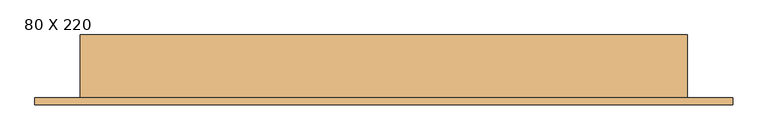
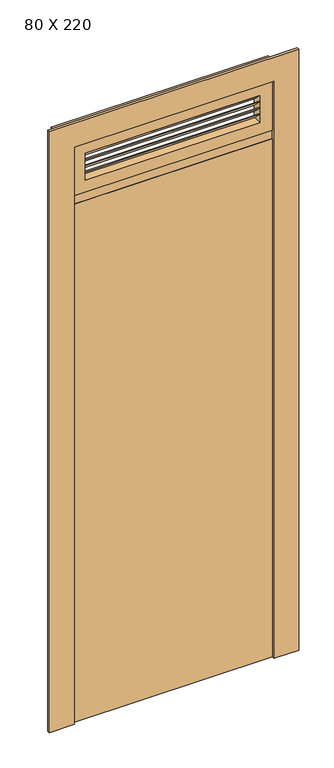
"""IFC4 building model written with IfcOpenShell, lengths in millimetres: door geometry, PORTA DE ABRIR PARA FORA - 1 FOLHA + BANDEIRA VENEZIANA FIXA - 1 FOLHA : 80 X 220."""

from ifc_helpers import new_model, si_unit, frame, origin, origin_with_axes, place, context, project, spatial, polyline, outline, extrude, source, transform, mapped, element, save


def door_80_x_220_70965305(model_context):
    return source(origin(), model_context, "Body", "SweptSolid", [
        extrude(outline(polyline([(480.0, -35.0), (480.0, -75.0), (-320.0, -75.0), (-320.0, -35.0), (480.0, -35.0)])), origin_with_axes(), (0.0, 0.0, 1.0), 2200.0),
        extrude(outline(polyline([(-40.0, 2338.3333333), (-75.0, 2373.3333333), (-70.0, 2373.3333333), (-35.0, 2338.3333333), (-40.0, 2338.3333333)])), frame((-270.0, 0.0, 0.0), z_axis=(1.0, 0.0, 0.0), x_axis=(0.0, 1.0, 0.0)), (0.0, 0.0, 1.0), 700.0),
        extrude(outline(polyline([(-40.0, 2311.6666667), (-75.0, 2346.6666667), (-70.0, 2346.6666667), (-35.0, 2311.6666667), (-40.0, 2311.6666667)])), frame((-270.0, 0.0, 0.0), z_axis=(1.0, 0.0, 0.0), x_axis=(0.0, 1.0, 0.0)), (0.0, 0.0, 1.0), 700.0),
        extrude(outline(polyline([(-40.0, 2365.0), (-75.0, 2400.0), (-70.0, 2400.0), (-35.0, 2365.0), (-40.0, 2365.0)])), frame((-270.0, 0.0, 0.0), z_axis=(1.0, 0.0, 0.0), x_axis=(0.0, 1.0, 0.0)), (0.0, 0.0, 1.0), 700.0),
        extrude(outline(polyline([(-40.0, 2285.0), (-75.0, 2320.0), (-70.0, 2320.0), (-35.0, 2285.0), (-40.0, 2285.0)])), frame((-270.0, 0.0, 0.0), z_axis=(1.0, 0.0, 0.0), x_axis=(0.0, 1.0, 0.0)), (0.0, 0.0, 1.0), 700.0),
        extrude(outline(polyline([(2450.0, 480.0), (2450.0, -320.0), (2235.0, -320.0), (2235.0, 480.0), (2450.0, 480.0)]), holes=[polyline([(2400.0, 430.0), (2285.0, 430.0), (2285.0, -270.0), (2400.0, -270.0), (2400.0, 430.0)])]), frame((0.0, -75.0, 0.0), z_axis=(0.0, 1.0, 0.0), x_axis=(0.0, 0.0, 1.0)), (0.0, 0.0, 1.0), 40.0),
        extrude(outline(polyline([(2450.0, -320.0), (2450.0, 480.0), (0.0, 480.0), (0.0, 580.0), (2550.0, 580.0), (2550.0, -420.0), (0.0, -420.0), (0.0, -320.0), (2450.0, -320.0)])), frame((0.0, -85.0, 0.0), z_axis=(0.0, 1.0, 0.0), x_axis=(0.0, 0.0, 1.0)), (0.0, 0.0, 1.0), 10.0),
        extrude(outline(polyline([(0.0, -355.0), (0.0, -320.0), (2200.0, -320.0), (2200.0, 480.0), (0.0, 480.0), (0.0, 515.0), (2485.0, 515.0), (2485.0, -355.0), (0.0, -355.0)]), holes=[polyline([(2235.0, 480.0), (2235.0, -320.0), (2450.0, -320.0), (2450.0, 480.0), (2235.0, 480.0)])]), frame((0.0, -75.0, 0.0), z_axis=(0.0, 1.0, 0.0), x_axis=(0.0, 0.0, 1.0)), (0.0, 0.0, 1.0), 90.0),
    ])


if __name__ == "__main__":
    model = new_model("IFC4")
    model_context = context("Model", 3, world=origin())
    ifc_project = project(units=[si_unit("LENGTHUNIT", "METRE", prefix="MILLI")], contexts=[model_context])
    site = spatial("IfcSite", under=ifc_project)
    building = spatial("IfcBuilding", under=site)
    placement = place(None, origin())
    door_80_x_220_shape = door_80_x_220_70965305(model_context)
    element("IfcDoor", 1, ObjectType="PORTA DE ABRIR PARA FORA - 1 FOLHA + BANDEIRA VENEZIANA FIXA - 1 FOLHA : 80 X 220", at=placement, inside=building, context=model_context, shape_type="MappedRepresentation", body=[
        mapped(door_80_x_220_shape, transform((0.0, 0.0, 0.0), x_axis=(1.0, 0.0, 0.0), y_axis=(0.0, 1.0, 0.0), z_axis=(0.0, 0.0, 1.0))),
    ])
    save(model, "model.ifc")
